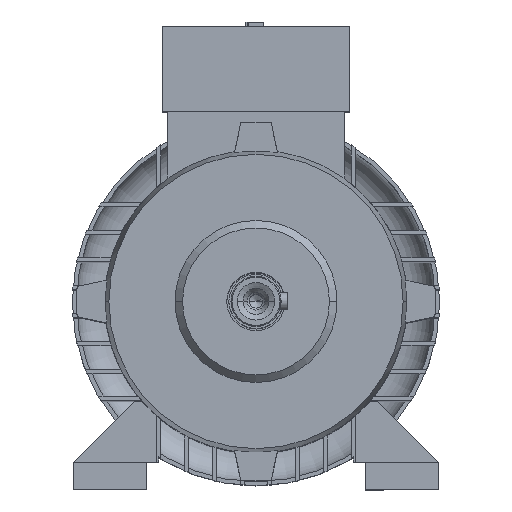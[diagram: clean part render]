
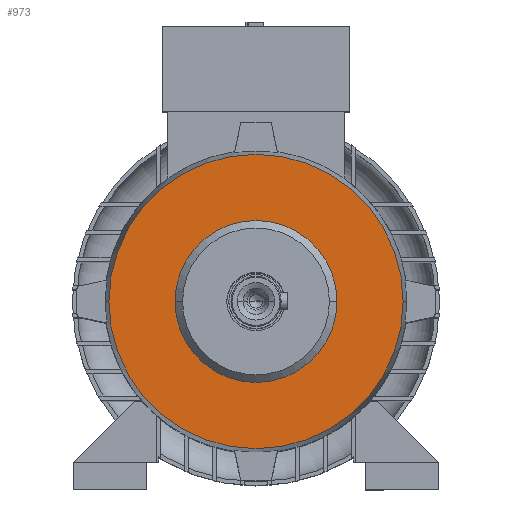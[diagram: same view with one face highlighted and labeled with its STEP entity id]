
A CAD part, top view. The second image highlights one B-rep face of the part: STEP entity #973.
In plain terms, the highlighted planar face has unit normal (0, 0, 1).
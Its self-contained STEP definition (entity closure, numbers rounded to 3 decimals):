
#304 = CARTESIAN_POINT ( 'NONE',  ( 0., 0., 109.9 ) ) ;
#308 = CARTESIAN_POINT ( 'NONE',  ( 0., 70.511, 109.9 ) ) ;
#383 = VERTEX_POINT ( 'NONE', #14692 ) ;
#973 = ADVANCED_FACE ( 'NONE', ( #3053, #5084 ), #2632, .F. ) ;
#1684 = AXIS2_PLACEMENT_3D ( 'NONE', #11786, #8005, #2095 ) ;
#1704 = ORIENTED_EDGE ( 'NONE', *, *, #8096, .T. ) ;
#1784 = DIRECTION ( 'NONE',  ( -1., 0., 0. ) ) ;
#2095 = DIRECTION ( 'NONE',  ( -1., 0., 0. ) ) ;
#2354 = CIRCLE ( 'NONE', #13882, 38.8 ) ;
#2632 = PLANE ( 'NONE',  #8274 ) ;
#3053 = FACE_OUTER_BOUND ( 'NONE', #8636, .T. ) ;
#3488 = ORIENTED_EDGE ( 'NONE', *, *, #12905, .T. ) ;
#3721 = VERTEX_POINT ( 'NONE', #7000 ) ;
#3756 = VERTEX_POINT ( 'NONE', #10595 ) ;
#4905 = CARTESIAN_POINT ( 'NONE',  ( 0., 0., 109.9 ) ) ;
#5008 = DIRECTION ( 'NONE',  ( 0., 0., -1. ) ) ;
#5084 = FACE_BOUND ( 'NONE', #12340, .T. ) ;
#5375 = CIRCLE ( 'NONE', #1684, 70.511 ) ;
#5878 = EDGE_CURVE ( 'NONE', #15295, #3721, #5375, .T. ) ;
#6415 = DIRECTION ( 'NONE',  ( -1., 0., 0. ) ) ;
#7000 = CARTESIAN_POINT ( 'NONE',  ( 70.511, 0., 109.9 ) ) ;
#7191 = CARTESIAN_POINT ( 'NONE',  ( 0., 0., 109.9 ) ) ;
#7297 = ORIENTED_EDGE ( 'NONE', *, *, #14276, .F. ) ;
#7545 = AXIS2_PLACEMENT_3D ( 'NONE', #304, #8583, #6415 ) ;
#8005 = DIRECTION ( 'NONE',  ( 0., 0., -1. ) ) ;
#8096 = EDGE_CURVE ( 'NONE', #3756, #383, #2354, .T. ) ;
#8274 = AXIS2_PLACEMENT_3D ( 'NONE', #308, #5008, #14711 ) ;
#8583 = DIRECTION ( 'NONE',  ( 0., 0., -1. ) ) ;
#8629 = DIRECTION ( 'NONE',  ( -1., 0., 0. ) ) ;
#8636 = EDGE_LOOP ( 'NONE', ( #10741, #7297 ) ) ;
#9310 = CIRCLE ( 'NONE', #7545, 38.8 ) ;
#9469 = CIRCLE ( 'NONE', #9889, 70.511 ) ;
#9889 = AXIS2_PLACEMENT_3D ( 'NONE', #4905, #14854, #1784 ) ;
#10595 = CARTESIAN_POINT ( 'NONE',  ( -38.8, 0., 109.9 ) ) ;
#10741 = ORIENTED_EDGE ( 'NONE', *, *, #5878, .F. ) ;
#11069 = DIRECTION ( 'NONE',  ( 0., 0., -1. ) ) ;
#11786 = CARTESIAN_POINT ( 'NONE',  ( 0., 0., 109.9 ) ) ;
#12340 = EDGE_LOOP ( 'NONE', ( #1704, #3488 ) ) ;
#12905 = EDGE_CURVE ( 'NONE', #383, #3756, #9310, .T. ) ;
#13882 = AXIS2_PLACEMENT_3D ( 'NONE', #7191, #11069, #8629 ) ;
#14276 = EDGE_CURVE ( 'NONE', #3721, #15295, #9469, .T. ) ;
#14513 = CARTESIAN_POINT ( 'NONE',  ( -70.511, 0., 109.9 ) ) ;
#14692 = CARTESIAN_POINT ( 'NONE',  ( 38.8, 0., 109.9 ) ) ;
#14711 = DIRECTION ( 'NONE',  ( -1., 0., 0. ) ) ;
#14854 = DIRECTION ( 'NONE',  ( 0., 0., -1. ) ) ;
#15295 = VERTEX_POINT ( 'NONE', #14513 ) ;
